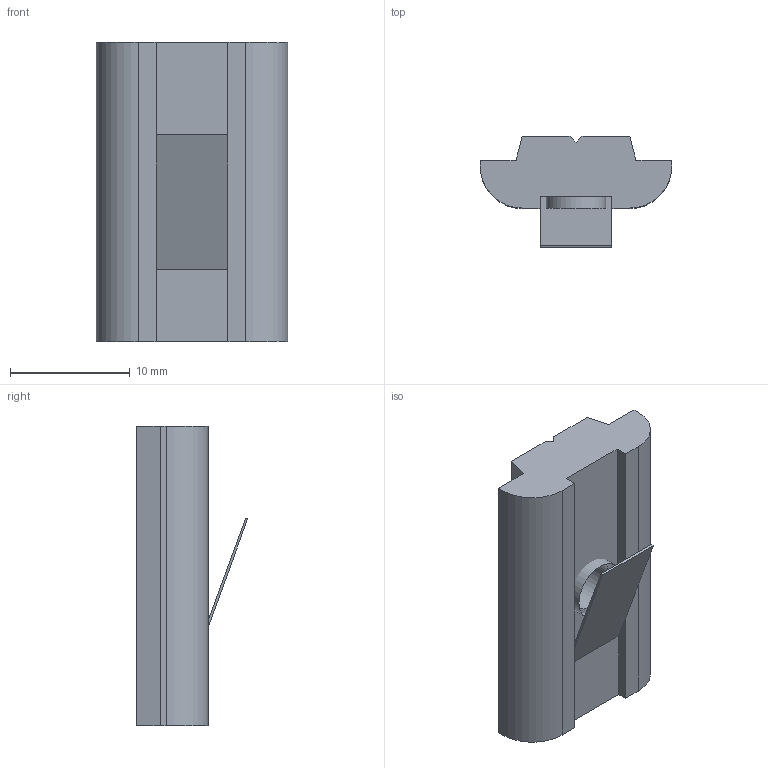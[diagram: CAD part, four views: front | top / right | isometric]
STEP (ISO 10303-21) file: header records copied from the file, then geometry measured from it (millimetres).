
FILE_DESCRIPTION((''),'2;1');
FILE_NAME('DATM0510','2002-12-27T',('Lipro doo'),('Lipro d.o.o.'),'PRO/ENGINEER BY PARAMETRIC TECHNOLOGY CORPORATION, 2001150','PRO/ENGINEER BY PARAMETRIC TECHNOLOGY CORPORATION, 2001150','');
FILE_SCHEMA(('CONFIG_CONTROL_DESIGN'));
Length unit declared in the file: millimetre
Products named in the file (1): DATM0510
Bounding box: 16 x 9.3 x 25 mm (x, y, z)
Volume: 1738.1 mm3; surface area: 1477.6 mm2
Topology: 1 solids, 2 shells, 35 faces, 102 edges, 68 vertices
Faces by surface type: plane 27, cylinder 6, cone 2
Entity records: 1203 total; most frequent: CARTESIAN_POINT 229, ORIENTED_EDGE 194, DIRECTION 184, EDGE_CURVE 102, VECTOR 76, LINE 76, VERTEX_POINT 68, AXIS2_PLACEMENT_3D 54
